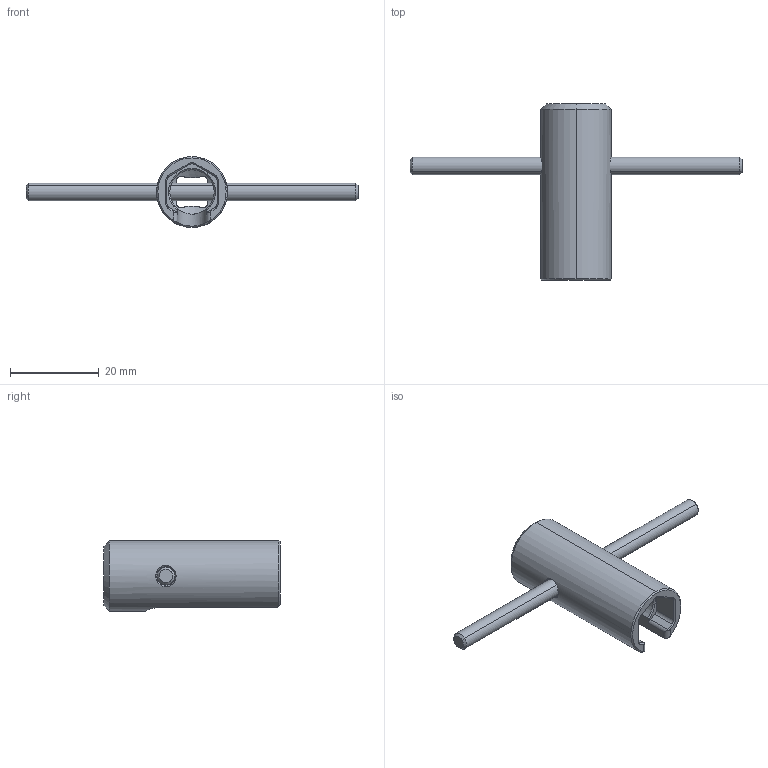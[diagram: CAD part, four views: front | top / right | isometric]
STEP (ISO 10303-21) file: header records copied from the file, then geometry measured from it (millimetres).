
FILE_DESCRIPTION (( 'STEP AP214' ), '1' );
FILE_NAME ('WLP-11MM-PLUG-WRENCH-PUBLIC.step', '2021-08-13T00:02:39', ( '' ), ( '' ), 'SwSTEP 2.0', 'SolidWorks 2020', '' );
FILE_SCHEMA (( 'AUTOMOTIVE_DESIGN' ));
Length unit declared in the file: foot
Products named in the file (1): WLP-11MM-PLUG-WRENCH-PUBLIC
Bounding box: 75 x 39.8 x 16 mm (x, y, z)
Volume: 5198.6 mm3; surface area: 4213.8 mm2
Topology: 2 solids, 2 shells, 78 faces, 200 edges, 125 vertices
Faces by surface type: plane 27, cylinder 26, cone 18, bspline 7
Entity records: 7279 total; most frequent: CARTESIAN_POINT 4447, ORIENTED_EDGE 400, DIRECTION 317, EDGE_CURVE 200, VERTEX_POINT 125, AXIS2_PLACEMENT_3D 114, VECTOR 89, LINE 89
